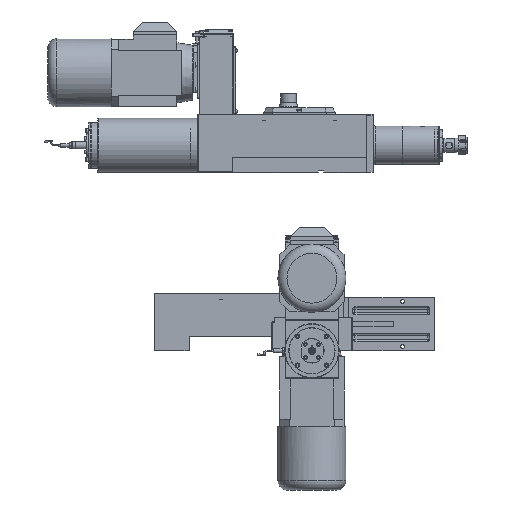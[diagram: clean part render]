
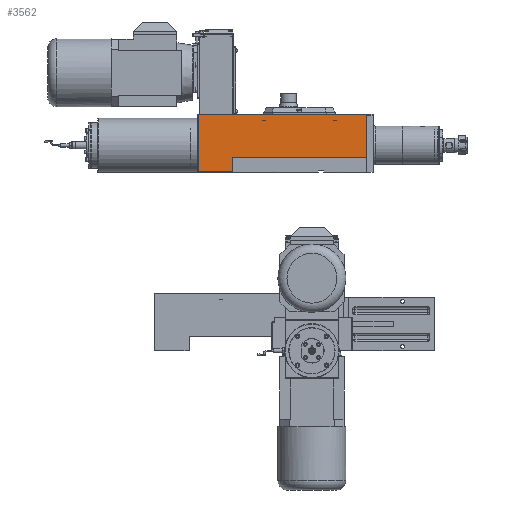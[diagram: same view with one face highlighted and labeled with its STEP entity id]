
A CAD part, front view. The second image highlights one B-rep face of the part: STEP entity #3562.
In plain terms, the highlighted planar face has unit normal (0, -1, 0).
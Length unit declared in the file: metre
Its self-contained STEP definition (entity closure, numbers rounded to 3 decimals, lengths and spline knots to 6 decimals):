
#3562 = ADVANCED_FACE( '', ( #5525 ), #5526, .T. );
#5525 = FACE_OUTER_BOUND( '', #8709, .T. );
#5526 = PLANE( '', #8710 );
#8709 = EDGE_LOOP( '', ( #15522, #15523, #15524, #15525, #15526, #15527 ) );
#8710 = AXIS2_PLACEMENT_3D( '', #15528, #15529, #15530 );
#15522 = ORIENTED_EDGE( '', *, *, #20824, .F. );
#15523 = ORIENTED_EDGE( '', *, *, #20820, .F. );
#15524 = ORIENTED_EDGE( '', *, *, #20825, .F. );
#15525 = ORIENTED_EDGE( '', *, *, #20826, .F. );
#15526 = ORIENTED_EDGE( '', *, *, #20827, .T. );
#15527 = ORIENTED_EDGE( '', *, *, #20828, .T. );
#15528 = CARTESIAN_POINT( '', ( 0.025, -0.019444, 0. ) );
#15529 = DIRECTION( '', ( 0., -1., 0. ) );
#15530 = DIRECTION( '', ( 0., 0., -1. ) );
#20820 = EDGE_CURVE( '', #24003, #24005, #24006, .T. );
#20824 = EDGE_CURVE( '', #24005, #24009, #24011, .T. );
#20825 = EDGE_CURVE( '', #23940, #24003, #24012, .T. );
#20826 = EDGE_CURVE( '', #24013, #23940, #24014, .T. );
#20827 = EDGE_CURVE( '', #24013, #24015, #24016, .T. );
#20828 = EDGE_CURVE( '', #24015, #24009, #24017, .T. );
#23940 = VERTEX_POINT( '', #29385 );
#24003 = VERTEX_POINT( '', #29480 );
#24005 = VERTEX_POINT( '', #29483 );
#24006 = LINE( '', #29484, #29485 );
#24009 = VERTEX_POINT( '', #29490 );
#24011 = LINE( '', #29493, #29494 );
#24012 = LINE( '', #29495, #29496 );
#24013 = VERTEX_POINT( '', #29497 );
#24014 = LINE( '', #29498, #29499 );
#24015 = VERTEX_POINT( '', #29500 );
#24016 = LINE( '', #29501, #29502 );
#24017 = LINE( '', #29503, #29504 );
#29385 = CARTESIAN_POINT( '', ( -0.3465, -0.019444, 0.0005 ) );
#29480 = CARTESIAN_POINT( '', ( -0.3465, -0.019444, 0.1265 ) );
#29483 = CARTESIAN_POINT( '', ( 0.0245, -0.019444, 0.1265 ) );
#29484 = CARTESIAN_POINT( '', ( -0.068, -0.019444, 0.1265 ) );
#29485 = VECTOR( '', #36294, 1. );
#29490 = CARTESIAN_POINT( '', ( 0.0245, -0.019444, 0.032 ) );
#29493 = CARTESIAN_POINT( '', ( 0.0245, -0.019444, 0. ) );
#29494 = VECTOR( '', #36298, 1. );
#29495 = CARTESIAN_POINT( '', ( -0.3465, -0.019444, 0. ) );
#29496 = VECTOR( '', #36299, 1. );
#29497 = CARTESIAN_POINT( '', ( -0.271, -0.019444, 0.0005 ) );
#29498 = CARTESIAN_POINT( '', ( -0.068, -0.019444, 0.0005 ) );
#29499 = VECTOR( '', #36300, 1. );
#29500 = CARTESIAN_POINT( '', ( -0.271, -0.019444, 0.032 ) );
#29501 = CARTESIAN_POINT( '', ( -0.271, -0.019444, 0. ) );
#29502 = VECTOR( '', #36301, 1. );
#29503 = CARTESIAN_POINT( '', ( -0.049, -0.019444, 0.032 ) );
#29504 = VECTOR( '', #36302, 1. );
#36294 = DIRECTION( '', ( 1., 0., 0. ) );
#36298 = DIRECTION( '', ( 0., 0., -1. ) );
#36299 = DIRECTION( '', ( 0., 0., 1. ) );
#36300 = DIRECTION( '', ( -1., 0., 0. ) );
#36301 = DIRECTION( '', ( 0., 0., 1. ) );
#36302 = DIRECTION( '', ( 1., 0., 0. ) );
